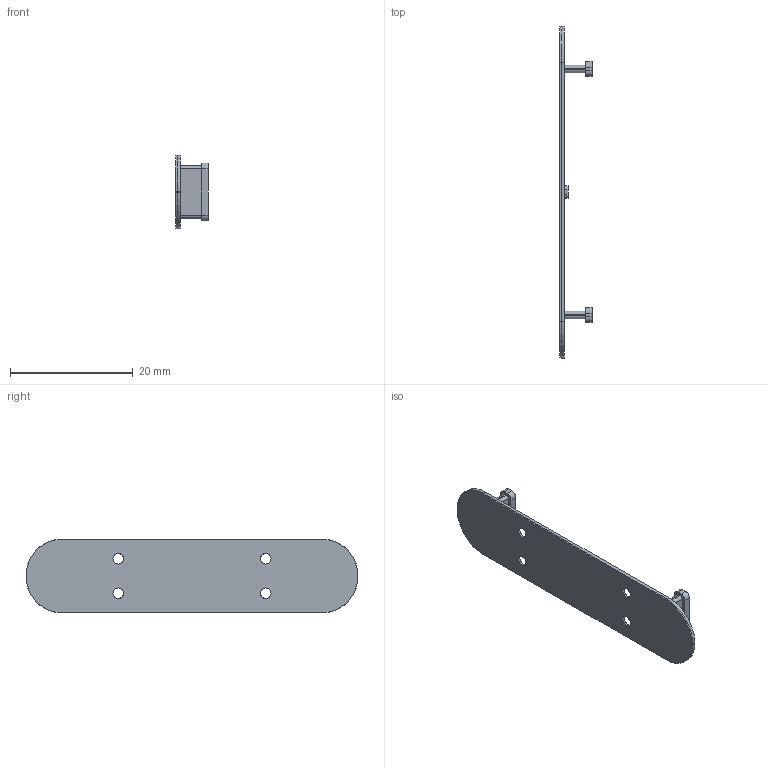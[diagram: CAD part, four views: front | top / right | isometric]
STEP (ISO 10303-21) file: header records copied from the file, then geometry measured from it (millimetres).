
FILE_DESCRIPTION(('Open CASCADE Model'),'2;1');
FILE_NAME('C27_06_PTT_Rigid_Carrier','2026-09-09T13:54:17',('Author'),( 'Open CASCADE'),'Open CASCADE STEP processor 7.9','build123d', 'Unknown');
FILE_SCHEMA(('AUTOMOTIVE_DESIGN { 1 0 10303 214 1 1 1 1 }'));
Length unit declared in the file: millimetre
Products named in the file (1): C27_06_PTT_Rigid_Carrier
Bounding box: 5.25 x 54 x 12 mm (x, y, z)
Volume: 539.1 mm3; surface area: 1550.8 mm2
Topology: 1 solids, 1 shells, 75 faces, 184 edges, 120 vertices
Faces by surface type: cylinder 36, plane 35, torus 4
Full cylindrical faces by diameter (mm): 1.7 x4, 2.8 x4
Entity records: 4687 total; most frequent: CARTESIAN_POINT 828, DIRECTION 760, LINE 404, VECTOR 404, ORIENTED_EDGE 368, PCURVE 368, DEFINITIONAL_REPRESENTATION 368, EDGE_CURVE 184
